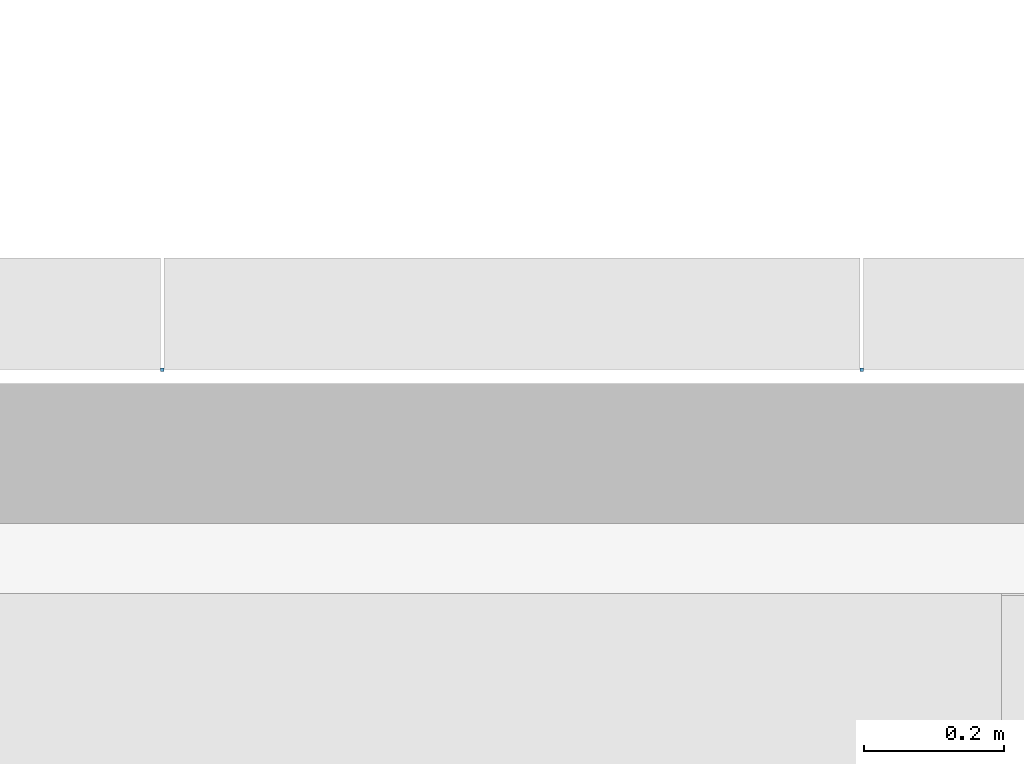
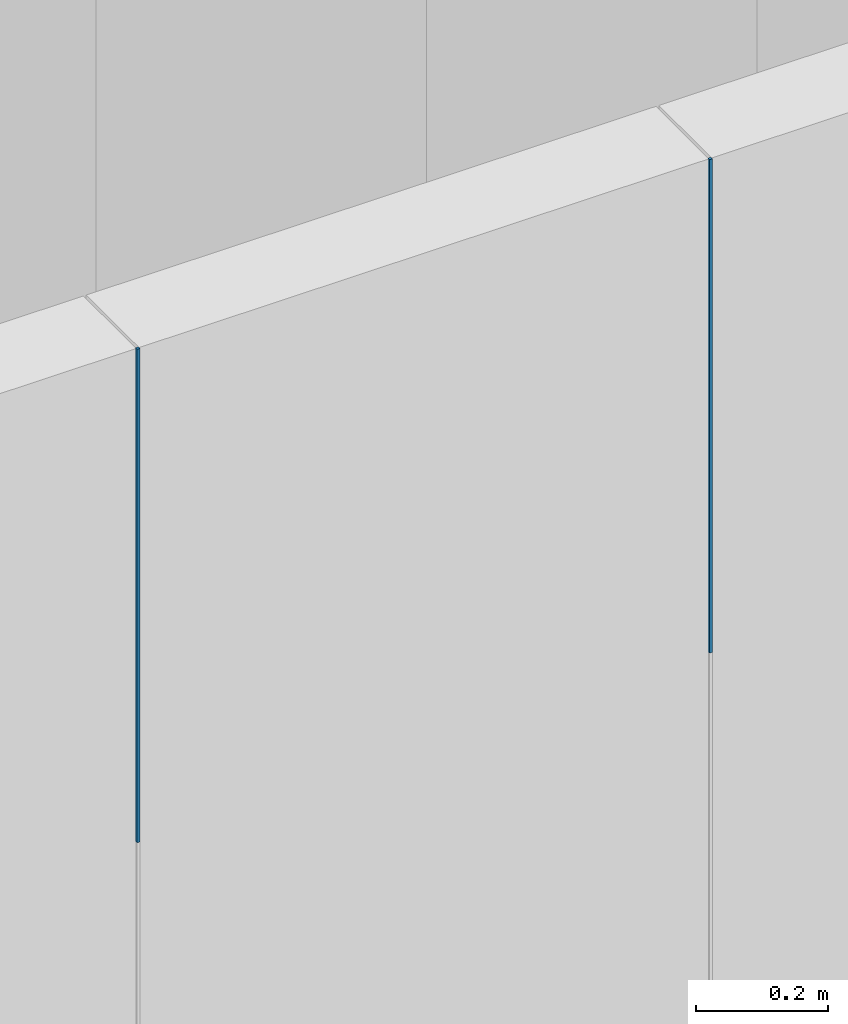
# One storey, part 205 of 302: 2 members, 1 element without a shape of its own.
"""IFC2X3 building model written with IfcOpenShell, lengths in metres."""

from ifc_helpers import new_model, entity, si_unit, converted_unit, derived_unit, direction, frame, frame_2d, origin, place, context, subcontext, project, spatial, rectangle, extrude, source, transform, mapped, material, type_object, type_shapes, element, aggregate, save


model = new_model("IFC2X3")

# Units and contexts
model_context = context("Model", 3, precision=1e-05, world=origin(), true_north=direction((6.12303176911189e-17, 1.0)))
body_context = subcontext(model_context, "Body", "Model", "MODEL_VIEW")
ifc_project = project(units=[si_unit("LENGTHUNIT", "METRE"), si_unit("AREAUNIT", "SQUARE_METRE"), si_unit("VOLUMEUNIT", "CUBIC_METRE"), converted_unit("PLANEANGLEUNIT", "DEGREE", entity("IfcRatioMeasure", 0.0174532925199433), si_unit("PLANEANGLEUNIT", "RADIAN"), dimensions=[0, 0, 0, 0, 0, 0, 0]), si_unit("MASSUNIT", "GRAM", prefix="KILO"), derived_unit("MASSDENSITYUNIT", [(si_unit("MASSUNIT", "GRAM", prefix="KILO"), 1), (si_unit("LENGTHUNIT", "METRE"), -3)]), derived_unit("MOMENTOFINERTIAUNIT", [(si_unit("LENGTHUNIT", "METRE"), 4)]), si_unit("TIMEUNIT", "SECOND"), si_unit("FREQUENCYUNIT", "HERTZ"), si_unit("THERMODYNAMICTEMPERATUREUNIT", "DEGREE_CELSIUS"), derived_unit("THERMALTRANSMITTANCEUNIT", [(si_unit("MASSUNIT", "GRAM", prefix="KILO"), 1), (si_unit("THERMODYNAMICTEMPERATUREUNIT", "KELVIN"), -1), (si_unit("TIMEUNIT", "SECOND"), -3)]), derived_unit("VOLUMETRICFLOWRATEUNIT", [(si_unit("LENGTHUNIT", "METRE"), 3), (si_unit("TIMEUNIT", "SECOND"), -1)]), si_unit("ELECTRICCURRENTUNIT", "AMPERE"), si_unit("ELECTRICVOLTAGEUNIT", "VOLT"), si_unit("POWERUNIT", "WATT"), si_unit("FORCEUNIT", "NEWTON", prefix="KILO"), si_unit("ILLUMINANCEUNIT", "LUX"), si_unit("LUMINOUSFLUXUNIT", "LUMEN"), si_unit("LUMINOUSINTENSITYUNIT", "CANDELA"), derived_unit("USERDEFINED", [(si_unit("MASSUNIT", "GRAM", prefix="KILO"), -1), (si_unit("LENGTHUNIT", "METRE"), -2), (si_unit("TIMEUNIT", "SECOND"), 3), (si_unit("LUMINOUSFLUXUNIT", "LUMEN"), 1)]), derived_unit("LINEARVELOCITYUNIT", [(si_unit("LENGTHUNIT", "METRE"), 1), (si_unit("TIMEUNIT", "SECOND"), -1)]), si_unit("PRESSUREUNIT", "PASCAL"), derived_unit("USERDEFINED", [(si_unit("LENGTHUNIT", "METRE"), -2), (si_unit("MASSUNIT", "GRAM", prefix="KILO"), 1), (si_unit("TIMEUNIT", "SECOND"), -2)]), derived_unit("LINEARFORCEUNIT", [(si_unit("MASSUNIT", "GRAM", prefix="KILO"), 1), (si_unit("LENGTHUNIT", "METRE"), 1), (si_unit("TIMEUNIT", "SECOND"), -2), (si_unit("LENGTHUNIT", "METRE"), -1)]), derived_unit("PLANARFORCEUNIT", [(si_unit("MASSUNIT", "GRAM", prefix="KILO"), 1), (si_unit("LENGTHUNIT", "METRE"), 1), (si_unit("TIMEUNIT", "SECOND"), -2), (si_unit("LENGTHUNIT", "METRE"), -2)])], contexts=[model_context])

# Site, building, storey
site_placement = place(None, origin())
site = spatial("IfcSite", under=ifc_project, at=site_placement, Name="Default", CompositionType="ELEMENT")
building_placement = place(site_placement, origin())
building = spatial("IfcBuilding", under=site, at=building_placement, CompositionType="ELEMENT")
storey_placement = place(building_placement, frame((0.0, 0.0, -1.3)))
storey = spatial("IfcBuildingStorey", under=building, at=storey_placement, Name="00_EG", CompositionType="ELEMENT", Elevation=-1.3)

# Curtain wall, members
curtain_wall_type = type_object("IfcCurtainWallType", Name="Fassade:Curtain Wall 1", PredefinedType="NOTDEFINED")
curtain_wall_placement = place(storey_placement, frame((0.0, 0.0, 1.3)))
curtain_wall = element("IfcCurtainWall", 1, at=curtain_wall_placement, inside=storey, type_object=curtain_wall_type, Name="Fassade:Curtain Wall 1", ObjectType="Fassade:Curtain Wall 1")
ifc_material = material(Name="Aluminium")
member_type = type_object("IfcMemberType", Name="Rectangular Mullion:Paneele Spalt", PredefinedType="MULLION", material=ifc_material)
shared_shape = source(origin(), body_context, "Body", "SweptSolid", [
    extrude(rectangle(XDim=0.005, YDim=0.005, at=frame_2d((0.0, -6.50521303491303e-19), x_axis=(1.0, 0.0))), frame((0.0, 0.0, -0.911252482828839), z_axis=(0.0, 0.0, 1.0), x_axis=(0.0, -1.0, 0.0)), (0.0, 0.0, 1.0), 0.911252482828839),
])
type_shapes(member_type, [shared_shape])
member_1_placement = place(storey_placement, frame((-208.610111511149, 45.578088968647, 10.2096475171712), z_axis=(0.0, 0.0, -1.0), x_axis=(-1.0, 0.0, 0.0)))
member_1 = element("IfcMember", 2, at=member_1_placement, type_object=member_type, material=ifc_material, Name="Rectangular Mullion:Paneele Spalt", ObjectType="Rectangular Mullion:Paneele Spalt", context=body_context, shape_type="MappedRepresentation", body=[
    mapped(shared_shape, transform((0.0, 0.0, 0.0), scale=1.0)),
])
member_2_placement = place(storey_placement, frame((-209.610111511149, 45.578088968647, 10.2096475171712), z_axis=(0.0, 0.0, -1.0), x_axis=(-1.0, 0.0, 0.0)))
member_2 = element("IfcMember", 3, at=member_2_placement, type_object=member_type, material=ifc_material, Name="Rectangular Mullion:Paneele Spalt", ObjectType="Rectangular Mullion:Paneele Spalt", context=body_context, shape_type="MappedRepresentation", body=[
    mapped(shared_shape, transform((0.0, 0.0, 0.0), scale=1.0)),
])
aggregate(curtain_wall, [member_1, member_2])

save(model, "model.ifc")
